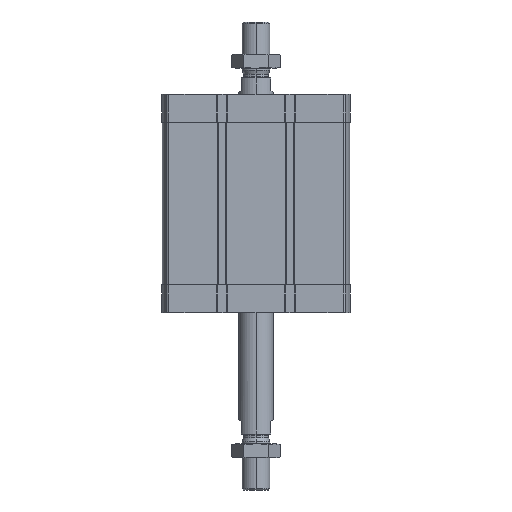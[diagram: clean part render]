
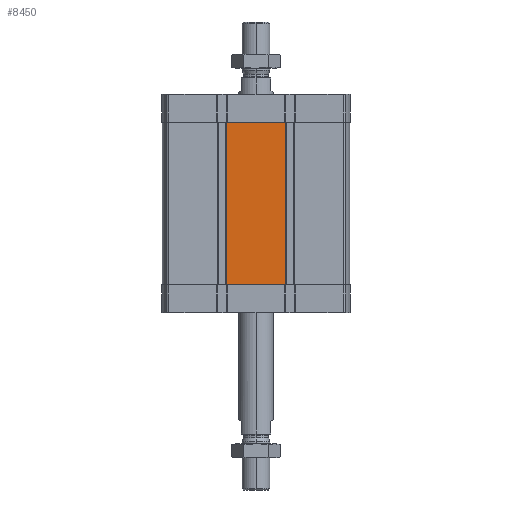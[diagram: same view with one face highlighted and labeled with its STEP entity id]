
A CAD part, left-side view. The second image highlights one B-rep face of the part: STEP entity #8450.
In plain terms, the highlighted planar face has unit normal (-1, 0, 0).
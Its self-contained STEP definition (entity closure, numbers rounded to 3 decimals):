
#398 = ORIENTED_EDGE ( 'NONE', *, *, #3131, .F. ) ;
#1576 = LINE ( 'NONE', #13548, #16785 ) ;
#1702 = LINE ( 'NONE', #16929, #8871 ) ;
#1736 = CARTESIAN_POINT ( 'NONE',  ( -67., -21.3, -136. ) ) ;
#1897 = LINE ( 'NONE', #9131, #8522 ) ;
#1923 = VECTOR ( 'NONE', #19110, 1000. ) ;
#1926 = EDGE_CURVE ( 'NONE', #11195, #6412, #18804, .T. ) ;
#2033 = EDGE_CURVE ( 'NONE', #8066, #13783, #11966, .T. ) ;
#2180 = ORIENTED_EDGE ( 'NONE', *, *, #1926, .F. ) ;
#2772 = VERTEX_POINT ( 'NONE', #14969 ) ;
#3131 = EDGE_CURVE ( 'NONE', #5138, #2772, #13258, .T. ) ;
#3530 = DIRECTION ( 'NONE',  ( 0., -1., 0. ) ) ;
#3536 = ORIENTED_EDGE ( 'NONE', *, *, #12239, .F. ) ;
#4968 = DIRECTION ( 'NONE',  ( 0., -1., 0. ) ) ;
#5138 = VERTEX_POINT ( 'NONE', #15624 ) ;
#5157 = VECTOR ( 'NONE', #3530, 1000. ) ;
#5419 = CARTESIAN_POINT ( 'NONE',  ( -67., -21.3, -20. ) ) ;
#5679 = DIRECTION ( 'NONE',  ( -1., 0., 0. ) ) ;
#6412 = VERTEX_POINT ( 'NONE', #14855 ) ;
#6699 = CARTESIAN_POINT ( 'NONE',  ( -67., 67., -136. ) ) ;
#6740 = VERTEX_POINT ( 'NONE', #5419 ) ;
#6899 = LINE ( 'NONE', #6699, #5157 ) ;
#7612 = DIRECTION ( 'NONE',  ( 0., -1., 0. ) ) ;
#7773 = DIRECTION ( 'NONE',  ( 0., 0., 1. ) ) ;
#8066 = VERTEX_POINT ( 'NONE', #11724 ) ;
#8450 = ADVANCED_FACE ( 'NONE', ( #14975 ), #11699, .T. ) ;
#8522 = VECTOR ( 'NONE', #15169, 1000. ) ;
#8621 = CARTESIAN_POINT ( 'NONE',  ( -67., 21.3, -136. ) ) ;
#8697 = EDGE_CURVE ( 'NONE', #6412, #6740, #1897, .T. ) ;
#8742 = CARTESIAN_POINT ( 'NONE',  ( -67., 67., -136. ) ) ;
#8857 = EDGE_LOOP ( 'NONE', ( #398, #18565, #12137, #11176, #19441, #10957, #2180, #3536 ) ) ;
#8871 = VECTOR ( 'NONE', #4968, 1000. ) ;
#9131 = CARTESIAN_POINT ( 'NONE',  ( -67., 67., -20. ) ) ;
#9525 = EDGE_CURVE ( 'NONE', #13783, #15509, #6899, .T. ) ;
#9643 = LINE ( 'NONE', #1736, #18604 ) ;
#10093 = AXIS2_PLACEMENT_3D ( 'NONE', #8742, #5679, #10418 ) ;
#10204 = CARTESIAN_POINT ( 'NONE',  ( -67., 20.687, -20. ) ) ;
#10259 = CARTESIAN_POINT ( 'NONE',  ( -67., -20.687, -136. ) ) ;
#10418 = DIRECTION ( 'NONE',  ( 0., 0., 1. ) ) ;
#10595 = VECTOR ( 'NONE', #18109, 1000. ) ;
#10957 = ORIENTED_EDGE ( 'NONE', *, *, #8697, .F. ) ;
#11176 = ORIENTED_EDGE ( 'NONE', *, *, #9525, .T. ) ;
#11195 = VERTEX_POINT ( 'NONE', #10204 ) ;
#11699 = PLANE ( 'NONE',  #10093 ) ;
#11724 = CARTESIAN_POINT ( 'NONE',  ( -67., 20.687, -136. ) ) ;
#11966 = LINE ( 'NONE', #8621, #14587 ) ;
#12137 = ORIENTED_EDGE ( 'NONE', *, *, #2033, .T. ) ;
#12239 = EDGE_CURVE ( 'NONE', #2772, #11195, #1576, .T. ) ;
#13258 = LINE ( 'NONE', #14949, #10595 ) ;
#13548 = CARTESIAN_POINT ( 'NONE',  ( -67., 67., -20. ) ) ;
#13783 = VERTEX_POINT ( 'NONE', #10259 ) ;
#14587 = VECTOR ( 'NONE', #16518, 1000. ) ;
#14855 = CARTESIAN_POINT ( 'NONE',  ( -67., -20.687, -20. ) ) ;
#14949 = CARTESIAN_POINT ( 'NONE',  ( -67., 21.3, -136. ) ) ;
#14969 = CARTESIAN_POINT ( 'NONE',  ( -67., 21.3, -20. ) ) ;
#14975 = FACE_OUTER_BOUND ( 'NONE', #8857, .T. ) ;
#15169 = DIRECTION ( 'NONE',  ( 0., -1., 0. ) ) ;
#15509 = VERTEX_POINT ( 'NONE', #15656 ) ;
#15624 = CARTESIAN_POINT ( 'NONE',  ( -67., 21.3, -136. ) ) ;
#15656 = CARTESIAN_POINT ( 'NONE',  ( -67., -21.3, -136. ) ) ;
#16518 = DIRECTION ( 'NONE',  ( 0., -1., 0. ) ) ;
#16785 = VECTOR ( 'NONE', #7612, 1000. ) ;
#16929 = CARTESIAN_POINT ( 'NONE',  ( -67., 67., -136. ) ) ;
#17420 = CARTESIAN_POINT ( 'NONE',  ( -67., 21.3, -20. ) ) ;
#17643 = EDGE_CURVE ( 'NONE', #15509, #6740, #9643, .T. ) ;
#18109 = DIRECTION ( 'NONE',  ( 0., 0., 1. ) ) ;
#18565 = ORIENTED_EDGE ( 'NONE', *, *, #19485, .T. ) ;
#18604 = VECTOR ( 'NONE', #7773, 1000. ) ;
#18804 = LINE ( 'NONE', #17420, #1923 ) ;
#19110 = DIRECTION ( 'NONE',  ( 0., -1., 0. ) ) ;
#19441 = ORIENTED_EDGE ( 'NONE', *, *, #17643, .T. ) ;
#19485 = EDGE_CURVE ( 'NONE', #5138, #8066, #1702, .T. ) ;
